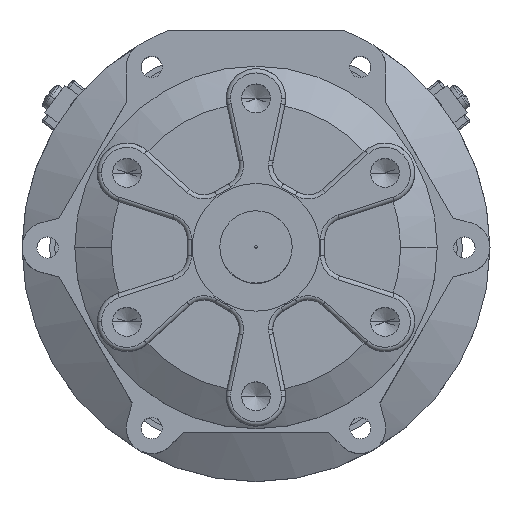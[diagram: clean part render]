
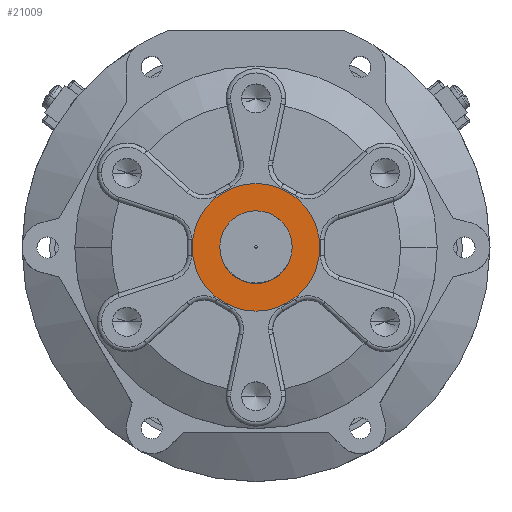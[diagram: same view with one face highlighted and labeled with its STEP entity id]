
A CAD part, top view. The second image highlights one B-rep face of the part: STEP entity #21009.
In plain terms, the highlighted planar face has unit normal (0, 0, 1).
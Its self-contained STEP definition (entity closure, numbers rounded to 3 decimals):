
#1027 = DIRECTION ( 'NONE',  ( 1., 0., 0. ) ) ;
#1051 = EDGE_CURVE ( 'NONE', #19560, #19272, #2887, .T. ) ;
#1411 = DIRECTION ( 'NONE',  ( -1., 0., 0. ) ) ;
#1775 = CARTESIAN_POINT ( 'NONE',  ( 8.5, 0., 0. ) ) ;
#2049 = CIRCLE ( 'NONE', #21611, 8.5 ) ;
#2589 = CARTESIAN_POINT ( 'NONE',  ( 0., 0., 0. ) ) ;
#2887 = CIRCLE ( 'NONE', #26350, 15. ) ;
#3133 = EDGE_CURVE ( 'NONE', #7028, #10735, #27503, .T. ) ;
#4282 = FACE_BOUND ( 'NONE', #16064, .T. ) ;
#5527 = EDGE_CURVE ( 'NONE', #19272, #19560, #9171, .T. ) ;
#6007 = CARTESIAN_POINT ( 'NONE',  ( 0., 8.5, 0. ) ) ;
#7026 = EDGE_CURVE ( 'NONE', #10735, #7028, #2049, .T. ) ;
#7028 = VERTEX_POINT ( 'NONE', #20532 ) ;
#7665 = CARTESIAN_POINT ( 'NONE',  ( 0., 0., 0. ) ) ;
#7949 = DIRECTION ( 'NONE',  ( 0., 0., 1. ) ) ;
#9171 = CIRCLE ( 'NONE', #18834, 15. ) ;
#9836 = DIRECTION ( 'NONE',  ( 0., 0., 1. ) ) ;
#10735 = VERTEX_POINT ( 'NONE', #1775 ) ;
#10837 = EDGE_LOOP ( 'NONE', ( #20560, #14384 ) ) ;
#11238 = DIRECTION ( 'NONE',  ( 0., 0., 1. ) ) ;
#12264 = AXIS2_PLACEMENT_3D ( 'NONE', #2589, #11238, #19757 ) ;
#12430 = PLANE ( 'NONE',  #13422 ) ;
#13422 = AXIS2_PLACEMENT_3D ( 'NONE', #6007, #20948, #1411 ) ;
#13850 = DIRECTION ( 'NONE',  ( 0., 0., 1. ) ) ;
#14247 = CARTESIAN_POINT ( 'NONE',  ( 15., 0., 0. ) ) ;
#14384 = ORIENTED_EDGE ( 'NONE', *, *, #1051, .T. ) ;
#14411 = ORIENTED_EDGE ( 'NONE', *, *, #7026, .F. ) ;
#16064 = EDGE_LOOP ( 'NONE', ( #14411, #22725 ) ) ;
#18834 = AXIS2_PLACEMENT_3D ( 'NONE', #25182, #7949, #22905 ) ;
#19272 = VERTEX_POINT ( 'NONE', #14247 ) ;
#19560 = VERTEX_POINT ( 'NONE', #21558 ) ;
#19757 = DIRECTION ( 'NONE',  ( 1., 0., 0. ) ) ;
#20109 = CARTESIAN_POINT ( 'NONE',  ( 0., 0., 0. ) ) ;
#20497 = FACE_OUTER_BOUND ( 'NONE', #10837, .T. ) ;
#20532 = CARTESIAN_POINT ( 'NONE',  ( -8.5, 0., 0. ) ) ;
#20560 = ORIENTED_EDGE ( 'NONE', *, *, #5527, .T. ) ;
#20948 = DIRECTION ( 'NONE',  ( 0., 0., -1. ) ) ;
#21009 = ADVANCED_FACE ( 'NONE', ( #4282, #20497 ), #12430, .F. ) ;
#21558 = CARTESIAN_POINT ( 'NONE',  ( -15., 0., 0. ) ) ;
#21611 = AXIS2_PLACEMENT_3D ( 'NONE', #7665, #9836, #27181 ) ;
#22725 = ORIENTED_EDGE ( 'NONE', *, *, #3133, .F. ) ;
#22905 = DIRECTION ( 'NONE',  ( 1., 0., 0. ) ) ;
#25182 = CARTESIAN_POINT ( 'NONE',  ( 0., 0., 0. ) ) ;
#26350 = AXIS2_PLACEMENT_3D ( 'NONE', #20109, #13850, #1027 ) ;
#27181 = DIRECTION ( 'NONE',  ( 1., 0., 0. ) ) ;
#27503 = CIRCLE ( 'NONE', #12264, 8.5 ) ;
